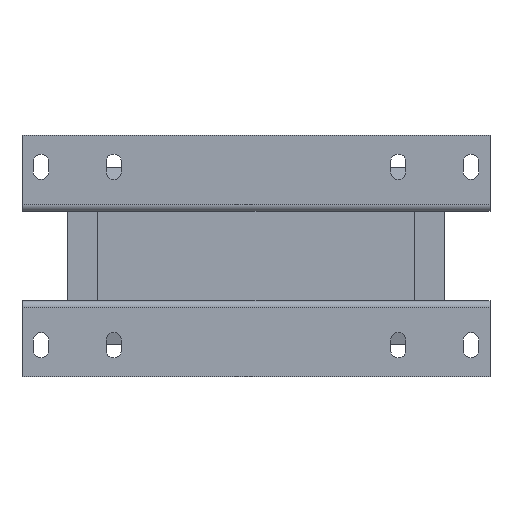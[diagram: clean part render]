
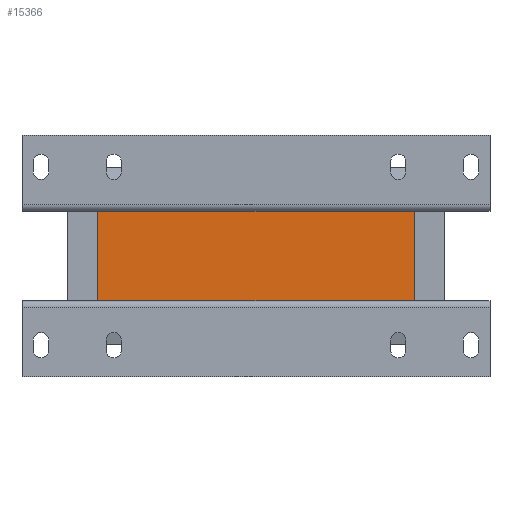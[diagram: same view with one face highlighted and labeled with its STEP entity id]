
A CAD part, front view. The second image highlights one B-rep face of the part: STEP entity #15366.
In plain terms, the highlighted planar face has unit normal (0, -1, 0).
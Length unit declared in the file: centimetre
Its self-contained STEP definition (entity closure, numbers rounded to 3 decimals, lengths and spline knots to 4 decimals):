
#842 = ORIENTED_EDGE ( 'NONE', *, *, #2057, .F. ) ;
#1136 = DIRECTION ( 'NONE',  ( 1., 0., 0. ) ) ;
#1498 = PLANE ( 'NONE',  #10067 ) ;
#1885 = DIRECTION ( 'NONE',  ( 0., 0., 1. ) ) ;
#2057 = EDGE_CURVE ( 'NONE', #13318, #6398, #10721, .T. ) ;
#2645 = DIRECTION ( 'NONE',  ( 1., 0., 0. ) ) ;
#2937 = FACE_OUTER_BOUND ( 'NONE', #3456, .T. ) ;
#3170 = LINE ( 'NONE', #15601, #8501 ) ;
#3194 = ORIENTED_EDGE ( 'NONE', *, *, #5744, .F. ) ;
#3456 = EDGE_LOOP ( 'NONE', ( #3194, #842, #9332, #14473 ) ) ;
#3464 = LINE ( 'NONE', #6145, #6195 ) ;
#5142 = EDGE_CURVE ( 'NONE', #12360, #11691, #3170, .T. ) ;
#5744 = EDGE_CURVE ( 'NONE', #6398, #11691, #3464, .T. ) ;
#6145 = CARTESIAN_POINT ( 'NONE',  ( -5., 0.65, 1.42 ) ) ;
#6195 = VECTOR ( 'NONE', #14850, 100. ) ;
#6398 = VERTEX_POINT ( 'NONE', #12660 ) ;
#7250 = CARTESIAN_POINT ( 'NONE',  ( 5., 0.65, -1.42 ) ) ;
#8270 = CARTESIAN_POINT ( 'NONE',  ( -5., 0.65, -1.42 ) ) ;
#8424 = VECTOR ( 'NONE', #14261, 100. ) ;
#8501 = VECTOR ( 'NONE', #1885, 100. ) ;
#9332 = ORIENTED_EDGE ( 'NONE', *, *, #10558, .T. ) ;
#9405 = CARTESIAN_POINT ( 'NONE',  ( -5., 0.65, -1.42 ) ) ;
#9619 = CARTESIAN_POINT ( 'NONE',  ( -5., 0.65, -1.42 ) ) ;
#9720 = VECTOR ( 'NONE', #1136, 100. ) ;
#10067 = AXIS2_PLACEMENT_3D ( 'NONE', #10301, #13715, #2645 ) ;
#10301 = CARTESIAN_POINT ( 'NONE',  ( -5., 0.65, -1.42 ) ) ;
#10558 = EDGE_CURVE ( 'NONE', #13318, #12360, #15761, .T. ) ;
#10721 = LINE ( 'NONE', #9405, #8424 ) ;
#11691 = VERTEX_POINT ( 'NONE', #12608 ) ;
#12360 = VERTEX_POINT ( 'NONE', #7250 ) ;
#12608 = CARTESIAN_POINT ( 'NONE',  ( 5., 0.65, 1.42 ) ) ;
#12660 = CARTESIAN_POINT ( 'NONE',  ( -5., 0.65, 1.42 ) ) ;
#13318 = VERTEX_POINT ( 'NONE', #8270 ) ;
#13715 = DIRECTION ( 'NONE',  ( 0., -1., 0. ) ) ;
#14261 = DIRECTION ( 'NONE',  ( 0., 0., 1. ) ) ;
#14473 = ORIENTED_EDGE ( 'NONE', *, *, #5142, .T. ) ;
#14850 = DIRECTION ( 'NONE',  ( 1., 0., 0. ) ) ;
#15366 = ADVANCED_FACE ( 'NONE', ( #2937 ), #1498, .T. ) ;
#15601 = CARTESIAN_POINT ( 'NONE',  ( 5., 0.65, -1.42 ) ) ;
#15761 = LINE ( 'NONE', #9619, #9720 ) ;
